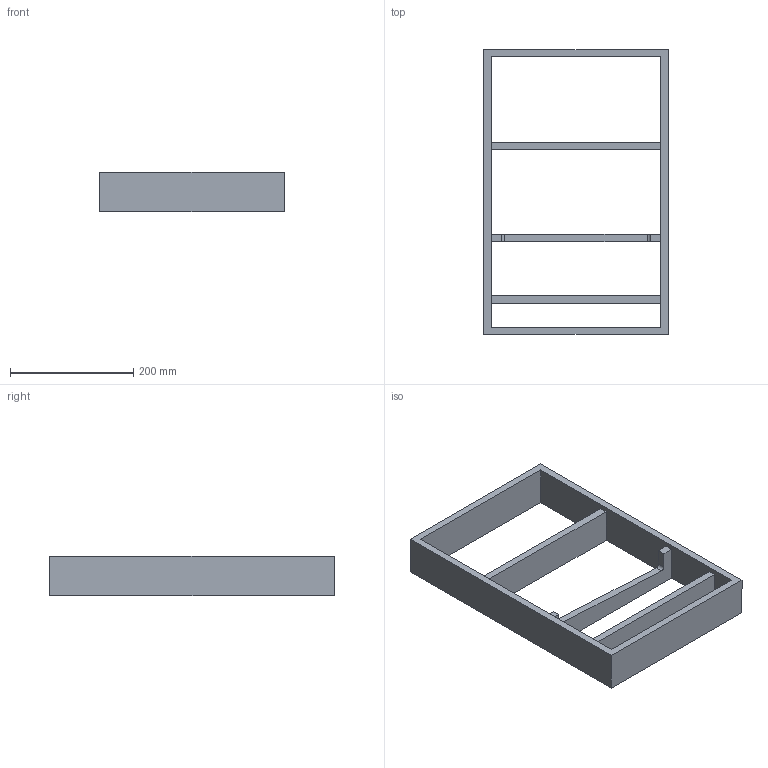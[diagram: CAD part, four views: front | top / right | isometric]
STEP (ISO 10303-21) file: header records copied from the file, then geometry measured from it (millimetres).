
FILE_DESCRIPTION (( 'STEP AP214' ), '1' );
FILE_NAME ('Vario Messer_Modul_H65_NL500_B300_ZE_Innenfront_Alu_Buche.step', '2010-10-07T06:11:56', ( 'grass' ), ( '' ), 'SwSTEP 2.0', 'SolidWorks 2010', '' );
FILE_SCHEMA (( 'AUTOMOTIVE_DESIGN' ));
Length unit declared in the file: millimetre
Products named in the file (1): Vario Messer_Modul_H65_NL500_B300_ZE_Innenfront_Alu_Buche
Bounding box: 300 x 463 x 65 mm (x, y, z)
Volume: 1643817.5 mm3; surface area: 325785.4 mm2
Topology: 1 solids, 1 shells, 25 faces, 78 edges, 52 vertices
Faces by surface type: plane 23, cylinder 2
Entity records: 906 total; most frequent: ORIENTED_EDGE 156, CARTESIAN_POINT 156, DIRECTION 134, EDGE_CURVE 78, LINE 74, VECTOR 74, VERTEX_POINT 52, AXIS2_PLACEMENT_3D 30
